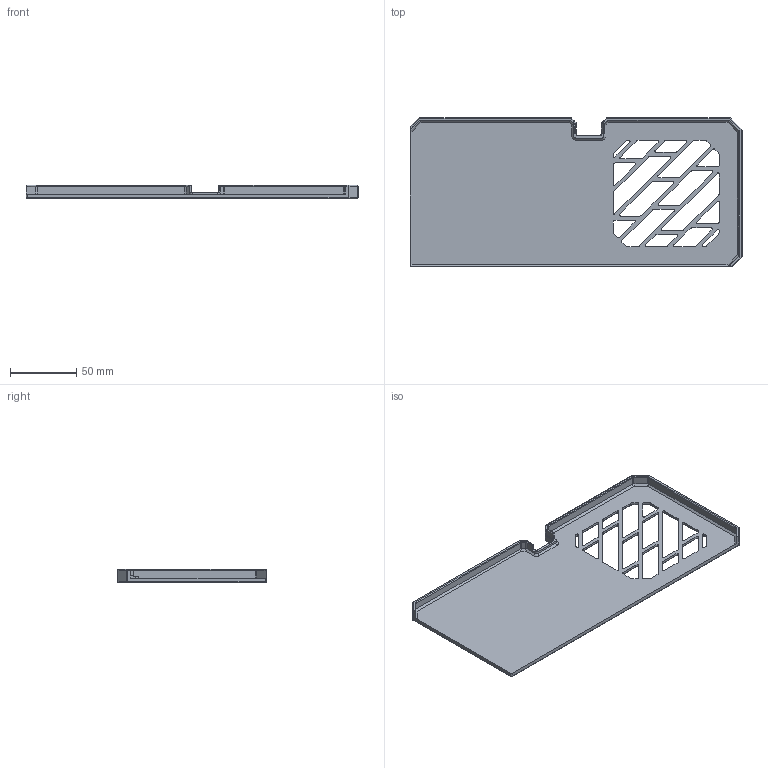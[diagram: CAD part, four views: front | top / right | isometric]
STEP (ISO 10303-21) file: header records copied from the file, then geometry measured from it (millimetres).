
FILE_DESCRIPTION((''),'2;1');
FILE_NAME('F306_MAKER_BACKPLATE','2023-04-25T13:17:43',('Kate'),(''),'CREO PARAMETRIC BY PTC INC, 2020281','CREO PARAMETRIC BY PTC INC, 2020281','');
FILE_SCHEMA(('CONFIG_CONTROL_DESIGN'));
Length unit declared in the file: millimetre
Products named in the file (1): F306_MAKER_BACKPLATE
Bounding box: 250.2 x 112.2 x 10 mm (x, y, z)
Volume: 52726.8 mm3; surface area: 56146.5 mm2
Topology: 1 solids, 1 shells, 477 faces, 1167 edges, 692 vertices
Faces by surface type: cylinder 226, plane 122, torus 109, bspline 16, cone 2, sphere 2
Entity records: 14709 total; most frequent: CARTESIAN_POINT 3340, DIRECTION 2497, ORIENTED_EDGE 2334, EDGE_CURVE 1167, AXIS2_PLACEMENT_3D 987, VERTEX_POINT 692, CIRCLE 526, VECTOR 523
